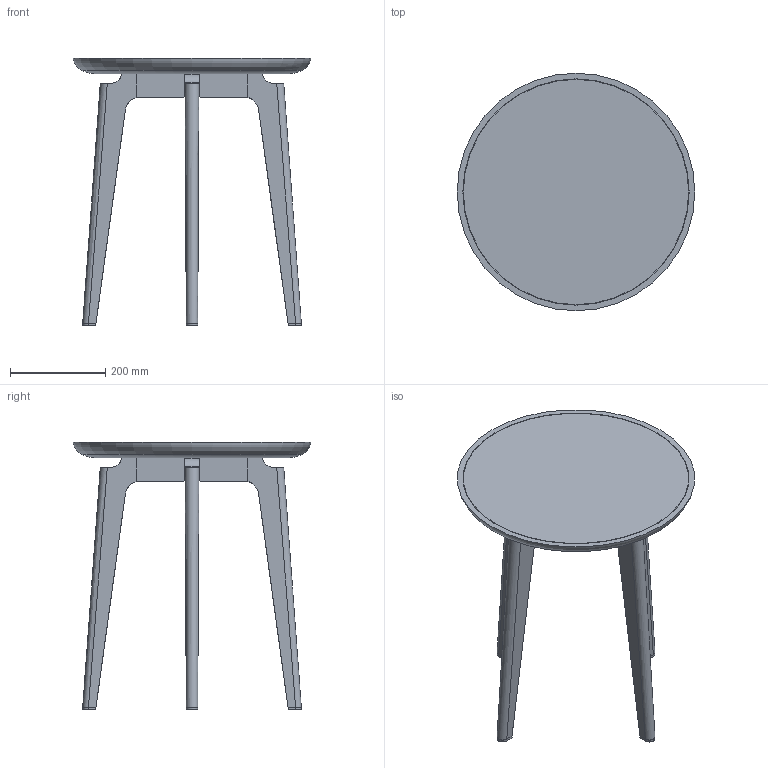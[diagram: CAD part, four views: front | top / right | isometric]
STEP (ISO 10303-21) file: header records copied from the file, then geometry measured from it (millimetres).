
FILE_DESCRIPTION(/* description */ (''),/* implementation_level */ '2;1');
FILE_NAME(/* name */ 'C:\Users\ronnie\Desktop\BLEND (Colombo)\56620-1-2-3-4 BLEND D50 (wood base).stp',/* time_stamp */ '2016-07-25T13:47:51+02:00',/* author */ ('ronnie'),/* organization */ (''),/* preprocessor_version */ 'ST-DEVELOPER v16.5',/* originating_system */ 'AutoCAD Mechanical',/* authorisation */ '');
FILE_SCHEMA (('AUTOMOTIVE_DESIGN { 1 0 10303 214 3 1 1 }'));
Length unit declared in the file: millimetre
Products named in the file (1): Product
Bounding box: 500 x 500 x 562 mm (x, y, z)
Volume: 6329257.7 mm3; surface area: 1042154.8 mm2
Topology: 11 solids, 11 shells, 170 faces, 390 edges, 256 vertices
Faces by surface type: plane 92, cylinder 44, bspline 32, torus 2
Full cylindrical faces by diameter (mm): 3 x8, 320 x1, 420 x1, 474 x1, 476 x1
Entity records: 5829 total; most frequent: CARTESIAN_POINT 2105, ORIENTED_EDGE 750, DIRECTION 724, EDGE_CURVE 375, AXIS2_PLACEMENT_3D 262, VERTEX_POINT 255, EDGE_LOOP 200, LINE 200
